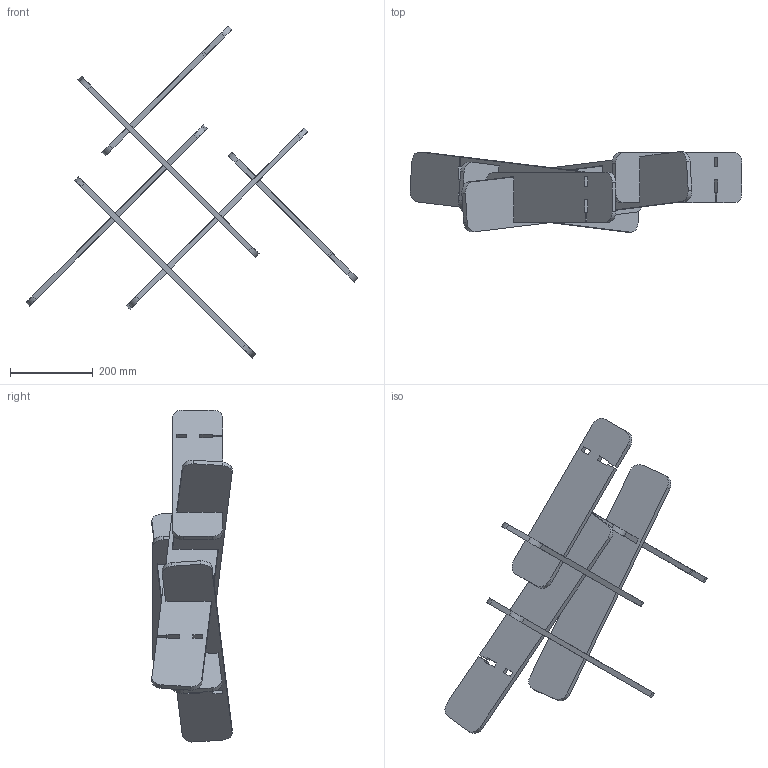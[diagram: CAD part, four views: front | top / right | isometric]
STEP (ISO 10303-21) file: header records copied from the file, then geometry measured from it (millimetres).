
FILE_DESCRIPTION(/* description */ (''),/* implementation_level */ '2;1');
FILE_NAME(/* name */ 'Y:\Design and Engineering\MaterialLogiq\CAD ASSETS\MASTER\GRAFFLE\WEB ASSETS\PET GRAFFLE_2x2_5DEG_ROUND.stp',/* time_stamp */ '2023-11-17T09:38:28-06:00',/* author */ ('Grant Baker'),/* organization */ (''),/* preprocessor_version */ 'ST-DEVELOPER v19',/* originating_system */ 'Autodesk Inventor 2023',/* authorisation */ '');
FILE_SCHEMA (('AUTOMOTIVE_DESIGN { 1 0 10303 214 3 1 1 }'));
Length unit declared in the file: inch
Products named in the file (4): PET GRAFFLE_2x2_5DEG_ROUND; PET GRAFFLE_2x2_B_5DEG_ROUND; PET GRAFFLE_2x2_A_5DEG_ROUND; PET GRAFFLE_2x2_LINK_5DEG_ROUND
Assembly tree (6 placements, depth 2):
  PET GRAFFLE_2x2_5DEG_ROUND
    PET GRAFFLE_2x2_B_5DEG_ROUND  x2
    PET GRAFFLE_2x2_A_5DEG_ROUND  x2
    PET GRAFFLE_2x2_LINK_5DEG_ROUND  x2
Bounding box: 802.22 x 193.33 x 802.22 mm (x, y, z)
Volume: 4632160 mm3; surface area: 892444.6 mm2
Topology: 6 solids, 6 shells, 252 faces, 720 edges, 480 vertices
Faces by surface type: plane 228, cylinder 24
Entity records: 4251 total; most frequent: CARTESIAN_POINT 736, ORIENTED_EDGE 720, DIRECTION 656, EDGE_CURVE 360, LINE 336, VECTOR 336, VERTEX_POINT 240, AXIS2_PLACEMENT_3D 160
